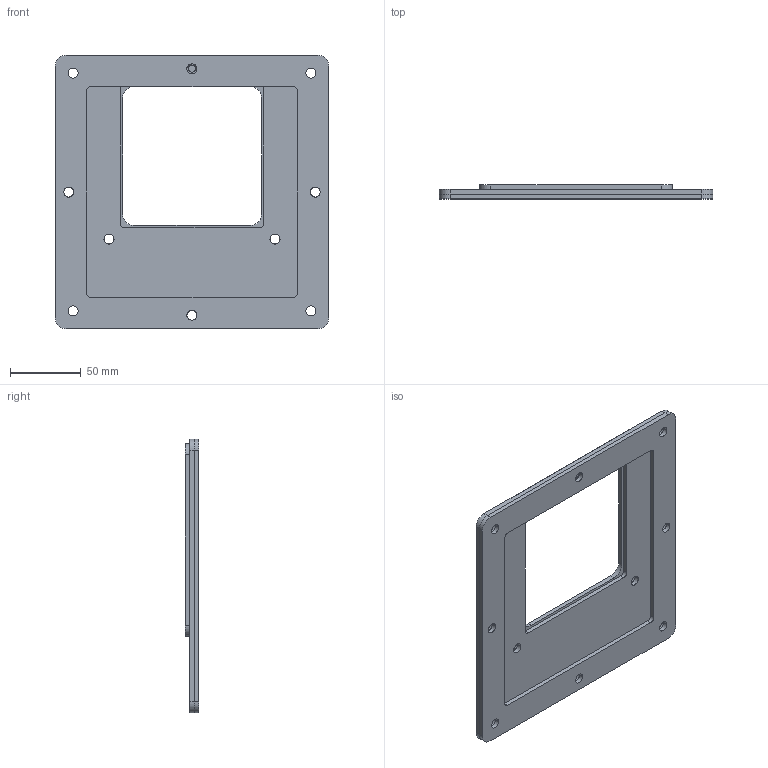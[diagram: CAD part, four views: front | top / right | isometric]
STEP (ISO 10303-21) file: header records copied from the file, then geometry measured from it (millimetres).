
FILE_DESCRIPTION (( 'STEP AP203' ), '1' );
FILE_NAME ('f66wre44.STEP', '2013-11-13T16:14:05', ( 'User' ), ( 'Pentair Inc' ), 'SwSTEP 2.0', 'SolidWorks 2010', '' );
FILE_SCHEMA (( 'CONFIG_CONTROL_DESIGN' ));
Length unit declared in the file: inch
Products named in the file (4): f66wre44; 14306004; 14304005; 14305009
Assembly tree (3 placements, depth 2):
  f66wre44
    14305009
    14304005
    14306004
Bounding box: 193.68 x 9.6 x 193.68 mm (x, y, z)
Volume: 161522.6 mm3; surface area: 113291.5 mm2
Topology: 3 solids, 3 shells, 159 faces, 446 edges, 296 vertices
Faces by surface type: cylinder 72, plane 50, bspline 33, cone 4
Entity records: 6896 total; most frequent: CARTESIAN_POINT 2348, ORIENTED_EDGE 892, DIRECTION 792, EDGE_CURVE 446, VERTEX_POINT 296, AXIS2_PLACEMENT_3D 280, VECTOR 232, LINE 232
